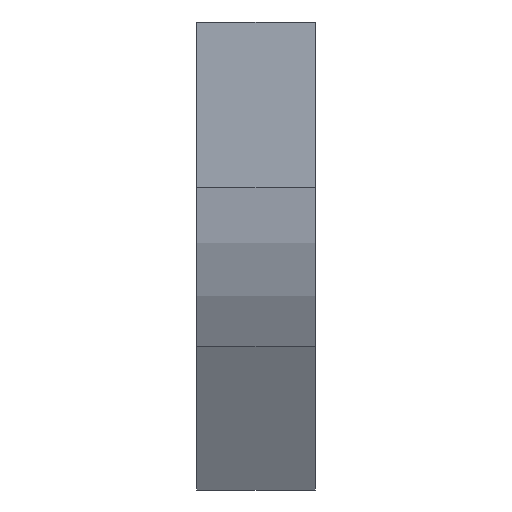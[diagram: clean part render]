
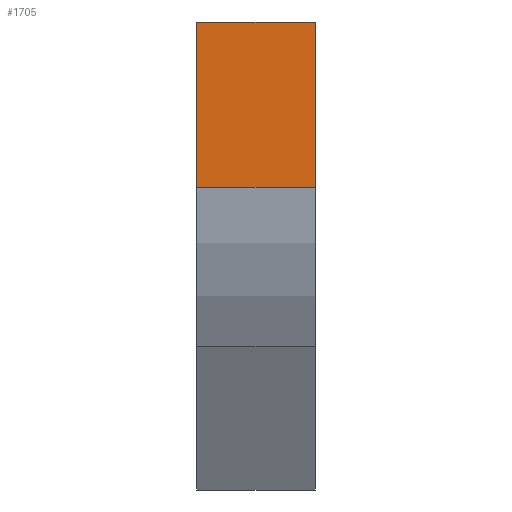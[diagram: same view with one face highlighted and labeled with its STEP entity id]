
A CAD part, left-side view. The second image highlights one B-rep face of the part: STEP entity #1705.
In plain terms, the highlighted planar face has unit normal (-1, 0, 0).
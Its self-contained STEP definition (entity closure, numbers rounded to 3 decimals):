
#3 = CARTESIAN_POINT ( 'NONE',  ( 0., 0., 0. ) ) ;
#82 = DIRECTION ( 'NONE',  ( 0., -1., 0. ) ) ;
#230 = DIRECTION ( 'NONE',  ( 0., 0., -1. ) ) ;
#258 = VERTEX_POINT ( 'NONE', #433 ) ;
#295 = EDGE_LOOP ( 'NONE', ( #345, #1250, #1756, #657 ) ) ;
#345 = ORIENTED_EDGE ( 'NONE', *, *, #1078, .F. ) ;
#368 = DIRECTION ( 'NONE',  ( 0., 0., -1. ) ) ;
#371 = VECTOR ( 'NONE', #423, 1000. ) ;
#397 = CARTESIAN_POINT ( 'NONE',  ( 0., 0., 0. ) ) ;
#423 = DIRECTION ( 'NONE',  ( 0., 0., -1. ) ) ;
#433 = CARTESIAN_POINT ( 'NONE',  ( 0., 0., -157.18 ) ) ;
#509 = CARTESIAN_POINT ( 'NONE',  ( 0., 112.5, 0. ) ) ;
#530 = PLANE ( 'NONE',  #1038 ) ;
#657 = ORIENTED_EDGE ( 'NONE', *, *, #1451, .T. ) ;
#671 = CARTESIAN_POINT ( 'NONE',  ( 0., 112.5, 0. ) ) ;
#939 = LINE ( 'NONE', #509, #1722 ) ;
#975 = DIRECTION ( 'NONE',  ( 1., 0., 0. ) ) ;
#987 = LINE ( 'NONE', #3, #371 ) ;
#1038 = AXIS2_PLACEMENT_3D ( 'NONE', #397, #975, #230 ) ;
#1040 = DIRECTION ( 'NONE',  ( 0., -1., 0. ) ) ;
#1078 = EDGE_CURVE ( 'NONE', #1666, #258, #987, .T. ) ;
#1250 = ORIENTED_EDGE ( 'NONE', *, *, #1611, .F. ) ;
#1365 = VECTOR ( 'NONE', #1040, 1000. ) ;
#1424 = VERTEX_POINT ( 'NONE', #1524 ) ;
#1447 = CARTESIAN_POINT ( 'NONE',  ( 0., 0., 0. ) ) ;
#1451 = EDGE_CURVE ( 'NONE', #1424, #258, #1827, .T. ) ;
#1505 = FACE_OUTER_BOUND ( 'NONE', #295, .T. ) ;
#1524 = CARTESIAN_POINT ( 'NONE',  ( 0., 112.5, -157.18 ) ) ;
#1580 = VECTOR ( 'NONE', #82, 1000. ) ;
#1592 = LINE ( 'NONE', #1765, #1365 ) ;
#1611 = EDGE_CURVE ( 'NONE', #1742, #1666, #1592, .T. ) ;
#1635 = CARTESIAN_POINT ( 'NONE',  ( 0., 0., -157.18 ) ) ;
#1666 = VERTEX_POINT ( 'NONE', #1447 ) ;
#1705 = ADVANCED_FACE ( 'NONE', ( #1505 ), #530, .F. ) ;
#1722 = VECTOR ( 'NONE', #368, 1000. ) ;
#1742 = VERTEX_POINT ( 'NONE', #671 ) ;
#1756 = ORIENTED_EDGE ( 'NONE', *, *, #1796, .T. ) ;
#1765 = CARTESIAN_POINT ( 'NONE',  ( 0., 0., 0. ) ) ;
#1796 = EDGE_CURVE ( 'NONE', #1742, #1424, #939, .T. ) ;
#1827 = LINE ( 'NONE', #1635, #1580 ) ;
